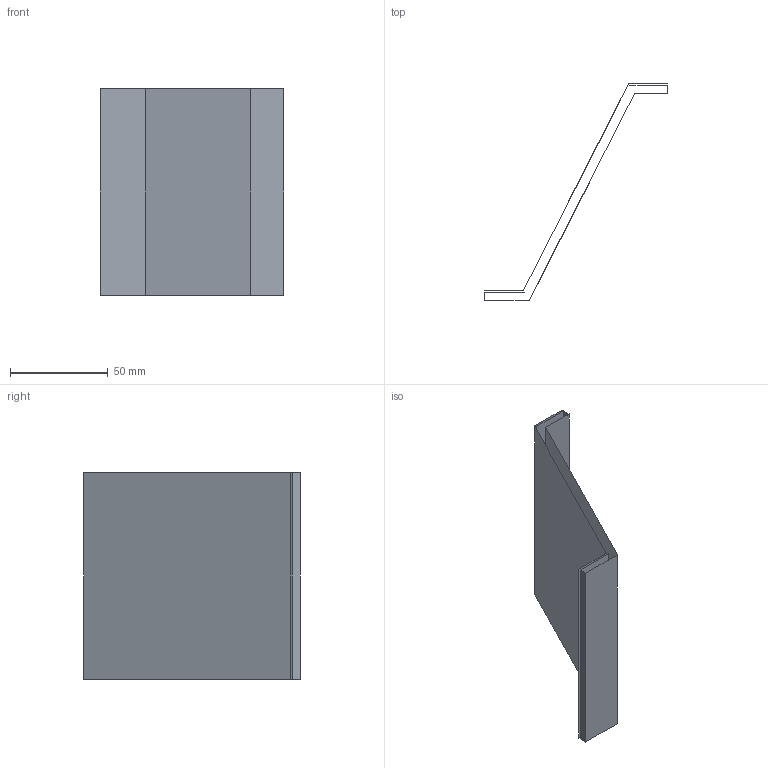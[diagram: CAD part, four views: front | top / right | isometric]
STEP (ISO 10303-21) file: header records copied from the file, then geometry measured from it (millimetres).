
FILE_DESCRIPTION(('CATIA V5 STEP Exchange'),'2;1');
FILE_NAME('C:\_Andres\UNIVERSIDAD\IQS\ASIGNATURAS\DAO\EXF\EXF-16172c\2inicio\Campmany_Monforte_Ej06_v6.stp','2017-03-05T21:01:22+00:00',('none'),('none'),'CATIA Version 5-6 Release 2014 SP1 HF18','CATIA V5 STEP AP203','none');
FILE_SCHEMA(('CONFIG_CONTROL_DESIGN'));
Length unit declared in the file: millimetre
Products named in the file (1): Campmany_Monforte_Ej06_v6
Bounding box: 94 x 111 x 106 mm (x, y, z)
Surface area: 38788 mm2 (no closed solid volume)
Topology: 0 solids, 2 shells, 10 faces, 42 edges, 36 vertices
Faces by surface type: plane 10
Entity records: 461 total; most frequent: CARTESIAN_POINT 100, DIRECTION 59, ORIENTED_EDGE 40, VECTOR 39, LINE 39, EDGE_CURVE 32, VERTEX_POINT 24, AXIS2_PLACEMENT_3D 11
